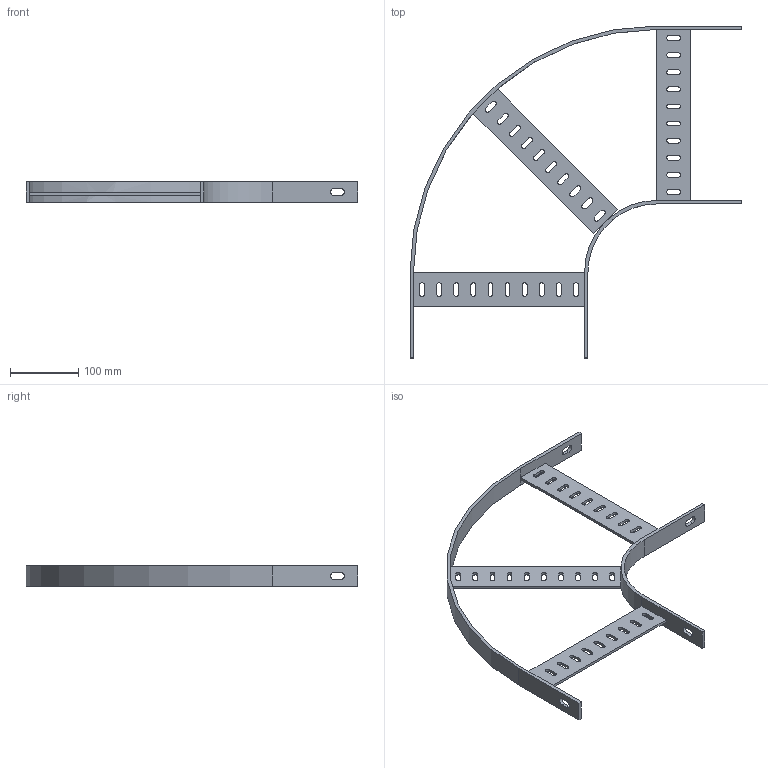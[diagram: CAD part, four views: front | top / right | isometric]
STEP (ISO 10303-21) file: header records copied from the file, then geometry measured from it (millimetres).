
FILE_DESCRIPTION(('Creo Elements/Direct Modeling STEP Export'),'2;1');
FILE_NAME('//pserver/office/EK/ME10-3D/3D-output/SLB 250F.stp','2020-03-10T15:04:49',(''),(''),'PTC Creo Elements/Direct Modeling STEP processor for AP214 (Solid Model)','PTC Creo Elements/Direct Modeling 19.0C 15-Aug-2015 (C) Parametric Technology GmbH','');
FILE_SCHEMA(('AUTOMOTIVE_DESIGN { 1 0 10303 214 1 1 1 1 }'));
Length unit declared in the file: millimetre
Products named in the file (1): SLB_250F
Bounding box: 485 x 485 x 30 mm (x, y, z)
Volume: 313907.4 mm3; surface area: 163831.8 mm2
Topology: 1 solids, 1 shells, 170 faces, 499 edges, 330 vertices
Faces by surface type: plane 98, cylinder 72
Entity records: 5802 total; most frequent: ORIENTED_EDGE 1000, CARTESIAN_POINT 993, DIRECTION 979, EDGE_CURVE 499, VECTOR 347, LINE 347, VERTEX_POINT 330, AXIS2_PLACEMENT_3D 316
